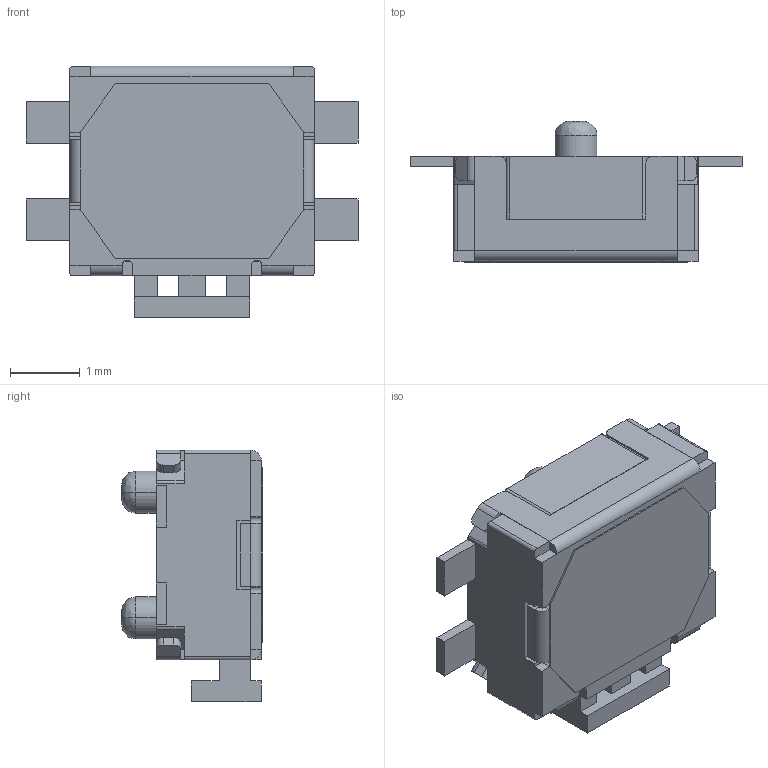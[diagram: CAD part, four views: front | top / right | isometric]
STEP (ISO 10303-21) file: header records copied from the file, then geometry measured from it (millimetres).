
FILE_DESCRIPTION((''),'2;1');
FILE_NAME('JQD3530-B-01DEG-1-105_ASM','2026-05-18T15:29:20',('Admin'),(''),'CREO PARAMETRIC BY PTC INC, 2019224','CREO PARAMETRIC BY PTC INC, 2019224','');
FILE_SCHEMA(('AUTOMOTIVE_DESIGN { 1 0 10303 214 1 1 1 1 }'));
Length unit declared in the file: millimetre
Products named in the file (5): JQD3530-B-01DEG-1-105_01; JQD3530-B-01DEG-1-105_02; JQD3530-B-01DEG-1-105_03; JQD3530-B-01DEG-1-105_04; JQD3530-B-01DEG-1-105_ASM
Assembly tree (4 placements, depth 2):
  JQD3530-B-01DEG-1-105_ASM
    JQD3530-B-01DEG-1-105_01
    JQD3530-B-01DEG-1-105_02
    JQD3530-B-01DEG-1-105_03
    JQD3530-B-01DEG-1-105_04
Bounding box: 4.75 x 2.02 x 3.6 mm (x, y, z)
Volume: 13.2 mm3; surface area: 122.6 mm2
Topology: 4 solids, 6 shells, 283 faces, 729 edges, 458 vertices
Faces by surface type: plane 203, cylinder 70, bspline 6, sphere 4
Entity records: 10408 total; most frequent: CARTESIAN_POINT 1684, DIRECTION 1457, ORIENTED_EDGE 1438, EDGE_CURVE 721, VECTOR 571, LINE 571, VERTEX_POINT 450, AXIS2_PLACEMENT_3D 443
